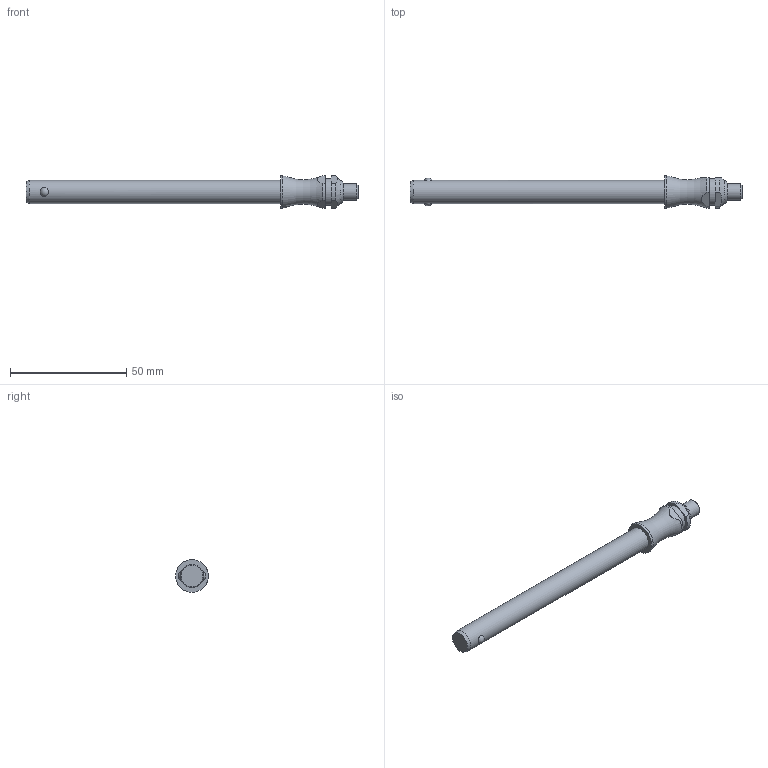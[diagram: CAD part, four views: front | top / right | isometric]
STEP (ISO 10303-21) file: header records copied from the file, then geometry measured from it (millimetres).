
FILE_DESCRIPTION( ( 'STEP AP203' ), '1' );
FILE_NAME( 'C:/Temp/Ganter_Step_05_03_2020/data/3_1/gn113_3/Stainless Steel-Ball lock pin GN 113.3-10-100 (deactivated).stp', '2020-03-12T08:18:38', ( 'License CC BY-ND 4.0' ), ( 'CADENAS' ), ' ', 'PARTsolutions', ' ' );
FILE_SCHEMA( ( 'CONFIG_CONTROL_DESIGN' ) );
Length unit declared in the file: millimetre
Products named in the file (1): _Stainless Steel-Ball lock pin GN 113.3-10-100 (deactivated)
Bounding box: 142.9 x 14 x 14 mm (x, y, z)
Volume: 11833.4 mm3; surface area: 4902.2 mm2
Topology: 1 solids, 1 shells, 28 faces, 60 edges, 39 vertices
Faces by surface type: plane 11, cylinder 10, cone 3, torus 2, sphere 2
Full cylindrical faces by diameter (mm): 7 x1, 10 x1, 11.6 x1, 14 x1
Entity records: 940 total; most frequent: CARTESIAN_POINT 327, DIRECTION 122, ORIENTED_EDGE 98, AXIS2_PLACEMENT_3D 52, EDGE_CURVE 49, EDGE_LOOP 42, VERTEX_POINT 37, FACE_OUTER_BOUND 34
